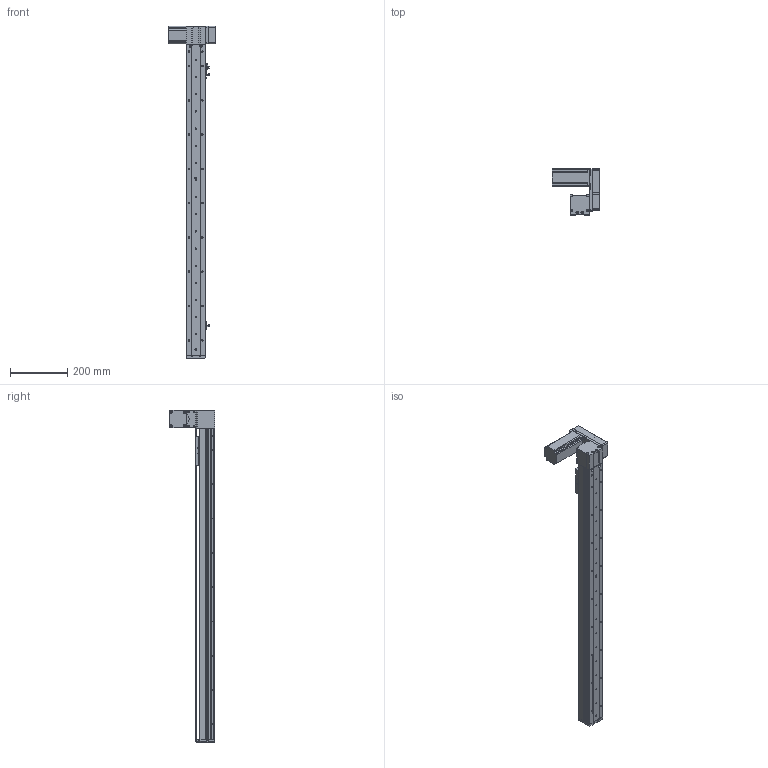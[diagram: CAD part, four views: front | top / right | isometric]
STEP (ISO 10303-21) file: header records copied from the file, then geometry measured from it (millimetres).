
FILE_DESCRIPTION (( 'STEP AP214' ), '1' );
FILE_NAME ('KSD68BS-S900-MLU-CM.STEP', '2019-08-22T02:38:58', ( '微软用户' ), ( '微软中国' ), 'SwSTEP 2.0', 'SolidWorks 2014', '' );
FILE_SCHEMA (( 'AUTOMOTIVE_DESIGN' ));
Length unit declared in the file: millimetre
Products named in the file (11): 68宽马达安装板连板上折同步带; 68宽单导轨半封闭同步带主动轮座左; 68单导轨同步带半封闭端板; KSD68BS 900俴最裔啣圉猾敕; 覜茼え68遵圉猾敕; KSD68BS半封闭同步带传动导轨座; U倰嫖萇EEㄜSX672; 台达ECMA－C20604AS伺服电机（400W); KSD68BS 900俴最菁啣圉猾敕; KSD68BS-S900-MLU-CM; 悵誘欶奻狟殏
Assembly tree (12 placements, depth 2):
  KSD68BS-S900-MLU-CM
    KSD68BS 900俴最菁啣圉猾敕
    台达ECMA－C20604AS伺服电机（400W)
    U倰嫖萇EEㄜSX672  x3
    KSD68BS半封闭同步带传动导轨座
    覜茼え68遵圉猾敕
    KSD68BS 900俴最裔啣圉猾敕
    68单导轨同步带半封闭端板
    68宽单导轨半封闭同步带主动轮座左
    68宽马达安装板连板上折同步带
    悵誘欶奻狟殏
Bounding box: 167.2 x 159.5 x 1162 mm (x, y, z)
Volume: 2244013.7 mm3; surface area: 782992.8 mm2
Topology: 13 solids, 13 shells, 1402 faces, 4038 edges, 2626 vertices
Faces by surface type: cylinder 704, plane 615, cone 83
Entity records: 51974 total; most frequent: CARTESIAN_POINT 10002, ORIENTED_EDGE 6828, DIRECTION 6724, EDGE_CURVE 3414, AXIS2_PLACEMENT_3D 2412, VERTEX_POINT 2250, LINE 1900, VECTOR 1900
